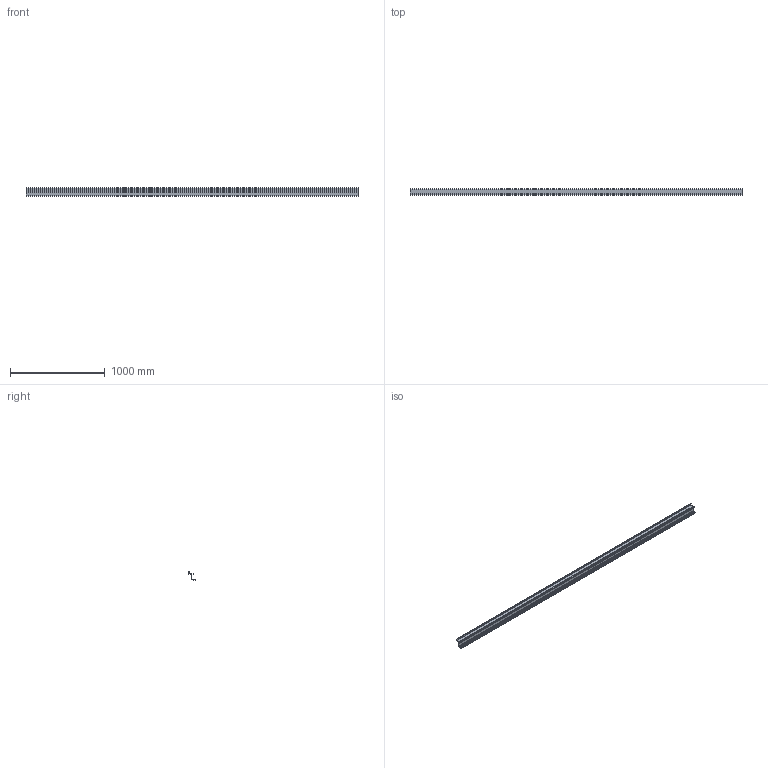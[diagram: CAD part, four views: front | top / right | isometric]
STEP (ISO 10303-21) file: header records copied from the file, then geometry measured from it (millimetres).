
FILE_DESCRIPTION(('STEP AP242'),'1');
FILE_NAME('OPO_51.047.62_volu_schn_3d.stp','2026-02-23T17:25:53',(' '),(' '),'Spatial InterOp 3D',' ',' ');
FILE_SCHEMA(('AP242_MANAGED_MODEL_BASED_3D_ENGINEERING_MIM_LF {1 0 10303 442 1 1 4}'));
Length unit declared in the file: millimetre
Products named in the file (1): 1
Bounding box: 3500 x 73 x 86 mm (x, y, z)
Volume: 1378977 mm3; surface area: 1479004.3 mm2
Topology: 1 solids, 1 shells, 102 faces, 547 edges, 712 vertices
Faces by surface type: plane 82, cylinder 20
Entity records: 7245 total; most frequent: CARTESIAN_POINT 841, DIRECTION 815, ORIENTED_EDGE 572, LINE 487, VECTOR 487, STYLED_ITEM 363, PRESENTATION_STYLE_ASSIGNMENT 363, COLOUR_RGB 363
